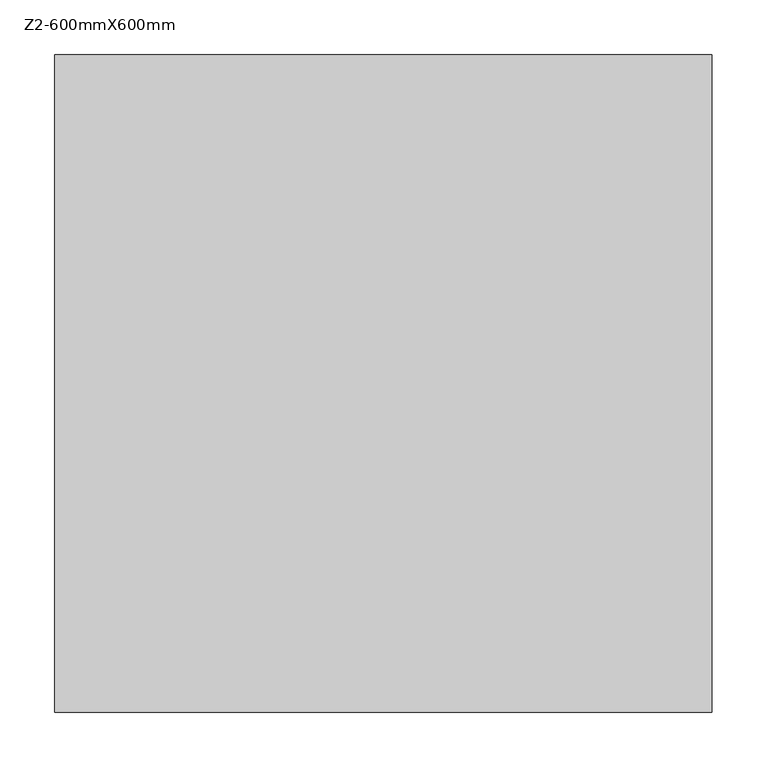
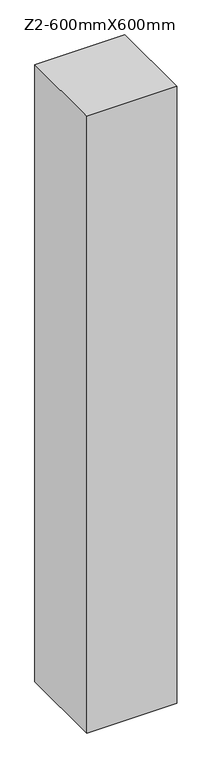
"""IFC4 building model written with IfcOpenShell, lengths in millimetres: column geometry, 混凝土 - 矩形 - 柱 : Z2-600mmX600mm."""

from ifc_helpers import new_model, si_unit, frame, origin, place, context, project, spatial, polyline, outline, extrude, source, transform, mapped, element, save


def z2_600mmx600mm_1a03ecea(model_context):
    return source(origin(), model_context, "Body", "SweptSolid", [
        extrude(outline(polyline([(300.0, -300.0), (-300.0, -300.0), (-300.0, 300.0), (300.0, 300.0), (300.0, -300.0)])), frame((0.0, 0.0, -450.0), z_axis=(0.0, 0.0, 1.0), x_axis=(1.0, 0.0, 0.0)), (0.0, 0.0, 1.0), 4350.0),
    ])


if __name__ == "__main__":
    model = new_model("IFC4")
    model_context = context("Model", 3, world=origin())
    ifc_project = project(units=[si_unit("LENGTHUNIT", "METRE", prefix="MILLI")], contexts=[model_context])
    site = spatial("IfcSite", under=ifc_project)
    building = spatial("IfcBuilding", under=site)
    placement = place(None, origin())
    z2_600mmx600mm_shape = z2_600mmx600mm_1a03ecea(model_context)
    element("IfcColumn", 1, ObjectType="混凝土 - 矩形 - 柱 : Z2-600mmX600mm", at=placement, inside=building, context=model_context, shape_type="MappedRepresentation", body=[
        mapped(z2_600mmx600mm_shape, transform((0.0, 0.0, 0.0), x_axis=(1.0, 0.0, 0.0), y_axis=(0.0, 1.0, 0.0), z_axis=(0.0, 0.0, 1.0))),
    ])
    save(model, "model.ifc")
